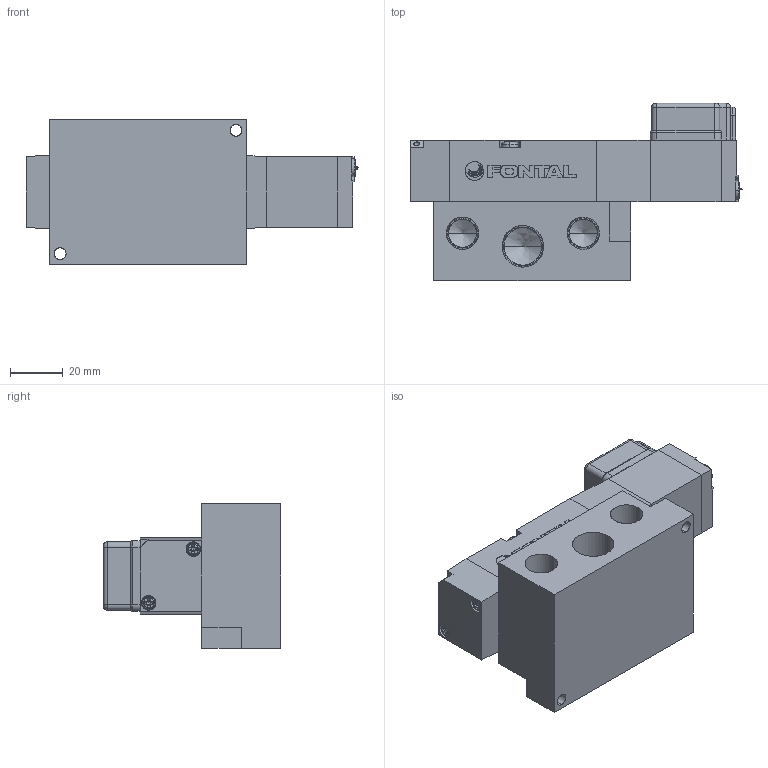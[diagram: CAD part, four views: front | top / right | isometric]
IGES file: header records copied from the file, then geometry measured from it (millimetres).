
Start section: SolidWorks IGES file using analytic representation for surfaces
Global section: file name: D:\Custom\3D繪製\PC\PC08\PCS2408#-03-#G#.IGS,1; native system: 5HSolidWorks 2014; preprocessor: SolidWorks 2014; author: Chieh_Lu; date: 150801.025744; units: millimetre
Bounding box: 126.47 x 67.5 x 55 mm (x, y, z)
Surface area: 45482.9 mm2 (no closed solid volume)
Topology: 0 solids, 0 shells, 539 faces, 5118 edges, 5085 vertices
Faces by surface type: bspline 336, revolution 203
